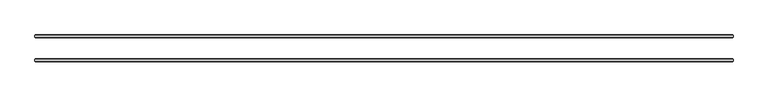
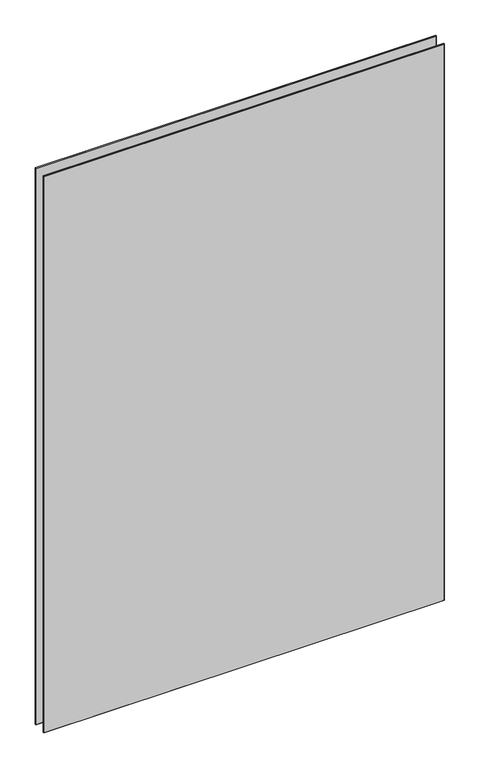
"""IFC4 building model written with IfcOpenShell, lengths in millimetres: plate geometry, 3-AMG-2-Панель двойной витраж 8, 10 : Смещение 32 Толщина 8mm."""

from ifc_helpers import new_model, si_unit, origin, place, context, project, spatial, faceted_brep, source, transform, mapped, element, save


def plate_dce934a9(model_context):
    return source(origin(), model_context, "Body", "Brep", [
        faceted_brep([(928.5185995, -34.4961653, 2722.8), (928.5185995, -29.5038347, 2722.8), (-933.5185995, -29.5038347, 2722.8), (-933.5185995, -34.4961653, 2722.8), (928.5185995, -29.5038347, -7.0), (928.5185995, -34.4961653, -7.0), (-933.5185995, -34.4961653, -7.0), (-933.5185995, -29.5038347, -7.0), (-932.0147648, -28.0, 2721.2961653), (927.0147648, -28.0, 2721.2961653), (927.0147648, -28.0, -5.5039422), (-932.0147648, -28.0, -5.5039422), (927.0147648, -36.0, 2721.2961653), (-932.0147648, -36.0, 2721.2961653), (-932.0147648, -36.0, -5.4961653), (927.0147648, -36.0, -5.4961653)], [[[0, 1, 2, 3]], [[4, 5, 6, 7]], [[8, 9, 10, 11]], [[3, 2, 7, 6]], [[12, 13, 14, 15]], [[1, 0, 5, 4]], [[1, 4, 10, 9]], [[5, 0, 12, 15]], [[0, 3, 13, 12]], [[2, 1, 9, 8]], [[7, 2, 8, 11]], [[3, 6, 14, 13]], [[6, 5, 15, 14]], [[4, 7, 11, 10]]]),
        faceted_brep([(928.5185995, 29.5038347, 2722.8), (928.5185995, 34.4961653, 2722.8), (-933.5185995, 34.4961653, 2722.8), (-933.5185995, 29.5038347, 2722.8), (928.5185995, 34.4961653, -7.0), (928.5185995, 29.5038347, -7.0), (-933.5185995, 29.5038347, -7.0), (-933.5185995, 34.4961653, -7.0), (-932.0147648, 36.0, 2721.2961653), (927.0147648, 36.0, 2721.2961653), (927.0147648, 36.0, -5.5039422), (-932.0147648, 36.0, -5.5039422), (927.0147648, 28.0, 2721.2961653), (-932.0147648, 28.0, 2721.2961653), (-932.0147648, 28.0, -5.4961653), (927.0147648, 28.0, -5.4961653)], [[[0, 1, 2, 3]], [[4, 5, 6, 7]], [[8, 9, 10, 11]], [[3, 2, 7, 6]], [[12, 13, 14, 15]], [[1, 0, 5, 4]], [[1, 4, 10, 9]], [[5, 0, 12, 15]], [[7, 2, 8, 11]], [[3, 6, 14, 13]], [[0, 3, 13, 12]], [[2, 1, 9, 8]], [[6, 5, 15, 14]], [[4, 7, 11, 10]]]),
    ])


if __name__ == "__main__":
    model = new_model("IFC4")
    model_context = context("Model", 3, world=origin())
    ifc_project = project(units=[si_unit("LENGTHUNIT", "METRE", prefix="MILLI")], contexts=[model_context])
    site = spatial("IfcSite", under=ifc_project)
    building = spatial("IfcBuilding", under=site)
    placement = place(None, origin())
    plate_shape = plate_dce934a9(model_context)
    element("IfcPlate", 1, ObjectType="3-AMG-2-Панель двойной витраж 8, 10 : Смещение 32 Толщина 8mm", at=placement, inside=building, context=model_context, shape_type="MappedRepresentation", body=[
        mapped(plate_shape, transform((0.0, 0.0, 0.0), x_axis=(1.0, 0.0, 0.0), y_axis=(0.0, 1.0, 0.0), z_axis=(0.0, 0.0, 1.0))),
    ])
    save(model, "model.ifc")
